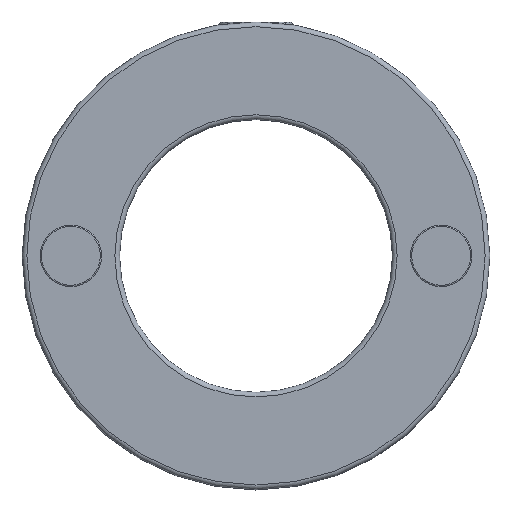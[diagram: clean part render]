
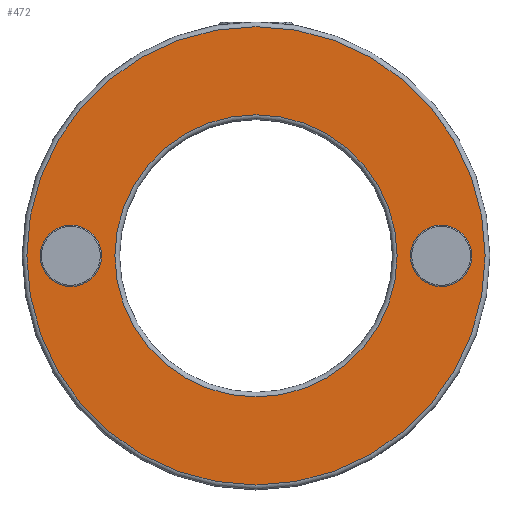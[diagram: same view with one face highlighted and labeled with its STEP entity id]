
A CAD part, top view. The second image highlights one B-rep face of the part: STEP entity #472.
In plain terms, the highlighted planar face has unit normal (0, 0, 1).
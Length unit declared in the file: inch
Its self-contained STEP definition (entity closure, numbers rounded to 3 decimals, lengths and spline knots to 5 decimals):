
#24=FACE_BOUND('',#167,.T.);
#25=FACE_BOUND('',#168,.T.);
#26=FACE_BOUND('',#169,.T.);
#47=PLANE('',#544);
#135=FACE_OUTER_BOUND('',#166,.T.);
#166=EDGE_LOOP('',(#388));
#167=EDGE_LOOP('',(#389));
#168=EDGE_LOOP('',(#390));
#169=EDGE_LOOP('',(#391));
#195=CIRCLE('',#516,0.09843);
#197=CIRCLE('',#519,0.09843);
#199=CIRCLE('',#522,0.735);
#210=CIRCLE('',#535,0.4525);
#225=VERTEX_POINT('',#744);
#227=VERTEX_POINT('',#750);
#229=VERTEX_POINT('',#756);
#237=VERTEX_POINT('',#776);
#270=EDGE_CURVE('',#225,#225,#195,.T.);
#273=EDGE_CURVE('',#227,#227,#197,.T.);
#276=EDGE_CURVE('',#229,#229,#199,.T.);
#287=EDGE_CURVE('',#237,#237,#210,.T.);
#388=ORIENTED_EDGE('',*,*,#276,.T.);
#389=ORIENTED_EDGE('',*,*,#270,.T.);
#390=ORIENTED_EDGE('',*,*,#273,.T.);
#391=ORIENTED_EDGE('',*,*,#287,.T.);
#472=ADVANCED_FACE('',(#135,#24,#25,#26),#47,.T.);
#516=AXIS2_PLACEMENT_3D('',#745,#596,#597);
#519=AXIS2_PLACEMENT_3D('',#751,#603,#604);
#522=AXIS2_PLACEMENT_3D('',#757,#610,#611);
#535=AXIS2_PLACEMENT_3D('',#778,#636,#637);
#544=AXIS2_PLACEMENT_3D('',#867,#657,#658);
#596=DIRECTION('center_axis',(0.,0.,-1.));
#597=DIRECTION('ref_axis',(-1.,0.,0.));
#603=DIRECTION('center_axis',(0.,0.,-1.));
#604=DIRECTION('ref_axis',(-1.,0.,0.));
#610=DIRECTION('center_axis',(0.,0.,1.));
#611=DIRECTION('ref_axis',(1.,0.,0.));
#636=DIRECTION('center_axis',(0.,0.,-1.));
#637=DIRECTION('ref_axis',(1.,0.,0.));
#657=DIRECTION('center_axis',(0.,0.,1.));
#658=DIRECTION('ref_axis',(1.,0.,0.));
#744=CARTESIAN_POINT('',(-0.49532,0.,0.5625));
#745=CARTESIAN_POINT('Origin',(-0.59375,0.,0.5625));
#750=CARTESIAN_POINT('',(0.69218,0.,0.5625));
#751=CARTESIAN_POINT('Origin',(0.59375,0.,0.5625));
#756=CARTESIAN_POINT('',(-0.735,0.,0.5625));
#757=CARTESIAN_POINT('Origin',(0.,0.,0.5625));
#776=CARTESIAN_POINT('',(-0.4525,0.,0.5625));
#778=CARTESIAN_POINT('Origin',(0.,0.,0.5625));
#867=CARTESIAN_POINT('Origin',(0.,0.,0.5625));
